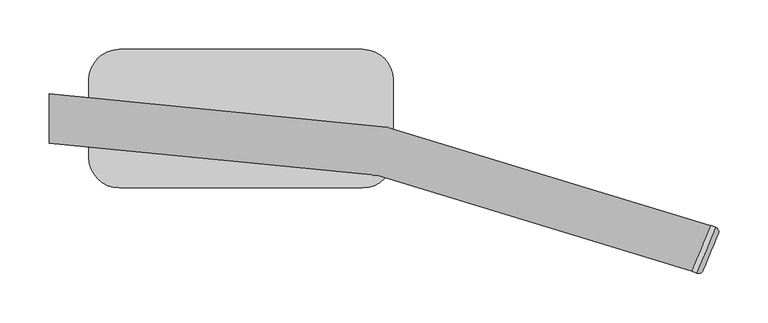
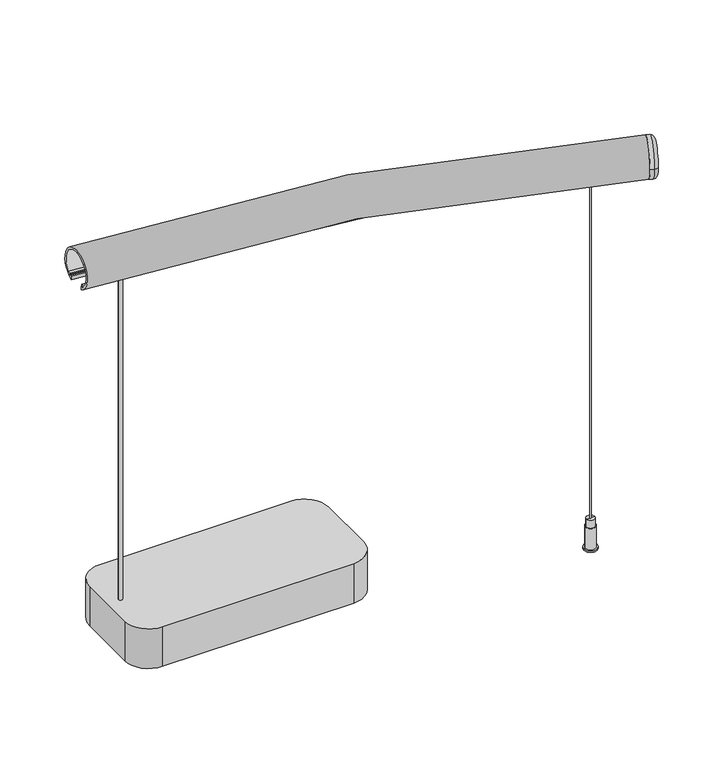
"""IFC4 building model written with IfcOpenShell, lengths in millimetres: light fixture geometry, ARTEMIDE-AoL-System-Curved_Suspended_US : Suspended_Curved 22.5°-1726mm 1118lm 3500K."""

import ifcopenshell
import ifcopenshell.guid

model = None  # the IFC model being written
_history = None  # IfcOwnerHistory: only IFC2X3 demands one
_inside = {}  # id of a spatial element -> (the spatial element, [elements in it])
_under = {}  # id of a project, library or spatial element -> (it, [spatial elements below it])
_declared = {}  # id of a project -> (the project, [libraries it declares])
_typed = {}  # id of a type object -> (the type object, [elements of that type])
_made_of = {}  # id of a material, layer set ... -> (it, [elements and type objects made of it])


def new_model(schema):
    """Start an empty IFC model of exactly this schema.

    Asked for "IFC4X3", IfcOpenShell would pick the latest addendum, in which some entities
    have other attributes; the version numbers below select the first issue.
    IFC2X3 requires an IfcOwnerHistory on every rooted entity: one is made here for all.
    """
    global model, _history
    if schema == "IFC4X3":
        model = ifcopenshell.file(schema_version=(4, 3, 0, 0))
    else:
        model = ifcopenshell.file(schema=schema)
    _inside.clear()
    _under.clear()
    _declared.clear()
    _typed.clear()
    _made_of.clear()
    _history = None
    if model.schema == "IFC2X3":
        org = make("IfcOrganization", Name="unknown")
        user = make(
            "IfcPersonAndOrganization",
            ThePerson=make("IfcPerson", FamilyName="unknown"),
            TheOrganization=org,
        )
        app = make(
            "IfcApplication",
            ApplicationDeveloper=org,
            Version="unknown",
            ApplicationFullName="unknown",
            ApplicationIdentifier="unknown",
        )
        _history = make(
            "IfcOwnerHistory",
            OwningUser=user,
            OwningApplication=app,
            ChangeAction="ADDED",
            CreationDate=0,
        )
    return model


def make(cls, **values):
    """One entity of the class cls with the attributes given. An attribute that is None is left unset."""
    return model.create_entity(
        cls, **{name: value for name, value in values.items() if value is not None}
    )


def rooted(cls, **values):
    """An entity with a GlobalId (a new one), such as an element, a storey or a relation."""
    return make(cls, GlobalId=ifcopenshell.guid.new(), OwnerHistory=_history, **values)


def si_unit(unit_type, name, prefix=None):
    """IfcSIUnit, for example si_unit("LENGTHUNIT", "METRE", prefix="MILLI")."""
    return make("IfcSIUnit", UnitType=unit_type, Prefix=prefix, Name=name)


def assignment(units):
    """IfcUnitAssignment: the units of a project."""
    return None if units is None else make("IfcUnitAssignment", Units=units)


def point(xyz):
    """IfcCartesianPoint."""
    return None if xyz is None else make("IfcCartesianPoint", Coordinates=xyz)


def direction(xyz):
    """IfcDirection."""
    return None if xyz is None else make("IfcDirection", DirectionRatios=xyz)


def frame(location, z_axis=None, x_axis=None):
    """IfcAxis2Placement3D, a coordinate frame: its origin and axes. An axis left out is left unset."""
    return make(
        "IfcAxis2Placement3D",
        Location=point(location),
        Axis=direction(z_axis),
        RefDirection=direction(x_axis),
    )


def frame_2d(location, x_axis=None):
    """IfcAxis2Placement2D, a coordinate frame in the plane: its origin and x axis."""
    return make(
        "IfcAxis2Placement2D", Location=point(location), RefDirection=direction(x_axis)
    )


def origin():
    """The frame at (0, 0, 0) with its axes left unset."""
    return frame((0.0, 0.0, 0.0))


def origin_with_axes():
    """The frame at (0, 0, 0) with the z axis (0, 0, 1) and the x axis (1, 0, 0) written out."""
    return frame((0.0, 0.0, 0.0), z_axis=(0.0, 0.0, 1.0), x_axis=(1.0, 0.0, 0.0))


def place(relative_to, where):
    """IfcLocalPlacement: puts the frame where relative to a parent placement (None: the world)."""
    return make(
        "IfcLocalPlacement", PlacementRelTo=relative_to, RelativePlacement=where
    )


def context(
    kind, dimensions, precision=None, world=None, true_north=None, identifier=None
):
    """IfcGeometricRepresentationContext, for example the 3D "Model" context."""
    return make(
        "IfcGeometricRepresentationContext",
        ContextIdentifier=identifier,
        ContextType=kind,
        CoordinateSpaceDimension=dimensions,
        Precision=precision,
        WorldCoordinateSystem=world,
        TrueNorth=true_north,
    )


def project(units=None, contexts=None):
    """IfcProject with its units and contexts."""
    return rooted(
        "IfcProject",
        Name="project",
        RepresentationContexts=contexts,
        UnitsInContext=assignment(units),
    )


def spatial(cls, under=None, at=None, **own):
    """A site, building, storey or space (cls), placed at a placement, below another one or the project."""
    s = rooted(cls, ObjectPlacement=at, **own)
    if under is not None:
        _under.setdefault(under.id(), (under, []))[1].append(s)
    return s


def polyline(points):
    """IfcPolyline through the points."""
    return make("IfcPolyline", Points=[point(p) for p in points])


def circle_curve(where, radius):
    """IfcCircle in the frame where."""
    return make("IfcCircle", Position=where, Radius=radius)


def ellipse_curve(where, semi_axis1, semi_axis2):
    """IfcEllipse in the frame where."""
    return make(
        "IfcEllipse", Position=where, SemiAxis1=semi_axis1, SemiAxis2=semi_axis2
    )


def trimmed(basis, trim1, trim2, sense, master):
    """IfcTrimmedCurve: the piece of a basis curve between two trims."""
    return make(
        "IfcTrimmedCurve",
        BasisCurve=basis,
        Trim1=trim1,
        Trim2=trim2,
        SenseAgreement=sense,
        MasterRepresentation=master,
    )


def segment(curve, same_sense, transition):
    """IfcCompositeCurveSegment."""
    return make(
        "IfcCompositeCurveSegment",
        Transition=transition,
        SameSense=same_sense,
        ParentCurve=curve,
    )


def composite_curve(segments, self_intersect=None):
    """IfcCompositeCurve: segments joined end to end."""
    return make("IfcCompositeCurve", Segments=segments, SelfIntersect=self_intersect)


def outline(outer, holes=None, kind="AREA"):
    """IfcArbitraryClosedProfileDef: a profile drawn as a closed curve; with holes, ...WithVoids."""
    if holes is None:
        return make("IfcArbitraryClosedProfileDef", ProfileType=kind, OuterCurve=outer)
    return make(
        "IfcArbitraryProfileDefWithVoids",
        ProfileType=kind,
        OuterCurve=outer,
        InnerCurves=holes,
    )


def extrude(swept, where, along, depth):
    """IfcExtrudedAreaSolid: the profile swept, set in the frame where, extruded along a direction by depth."""
    return make(
        "IfcExtrudedAreaSolid",
        SweptArea=swept,
        Position=where,
        ExtrudedDirection=direction(along),
        Depth=depth,
    )


def shape(context_of_items, identifier, shape_type, items):
    """IfcShapeRepresentation: the items that make up one representation, for example the "Body"."""
    return make(
        "IfcShapeRepresentation",
        ContextOfItems=context_of_items,
        RepresentationIdentifier=identifier,
        RepresentationType=shape_type,
        Items=items,
    )


def source(mapping_origin, context_of_items, identifier, shape_type, items):
    """IfcRepresentationMap: a shape defined once, which mapped items show again and again."""
    return make(
        "IfcRepresentationMap",
        MappingOrigin=mapping_origin,
        MappedRepresentation=shape(context_of_items, identifier, shape_type, items),
    )


def transform(
    local_origin,
    x_axis=None,
    y_axis=None,
    z_axis=None,
    scale=None,
    scale2=None,
    scale3=None,
    uniform=True,
):
    """IfcCartesianTransformationOperator3D, or its non-uniform kind. x_axis, y_axis, z_axis: its Axis1, 2, 3."""
    if uniform:
        return make(
            "IfcCartesianTransformationOperator3D",
            Axis1=direction(x_axis),
            Axis2=direction(y_axis),
            LocalOrigin=point(local_origin),
            Scale=scale,
            Axis3=direction(z_axis),
        )
    return make(
        "IfcCartesianTransformationOperator3DnonUniform",
        Axis1=direction(x_axis),
        Axis2=direction(y_axis),
        LocalOrigin=point(local_origin),
        Scale=scale,
        Axis3=direction(z_axis),
        Scale2=scale2,
        Scale3=scale3,
    )


def mapped(mapping_source, mapping_target):
    """IfcMappedItem: shows the shape of a source again, moved by a transform."""
    return make(
        "IfcMappedItem", MappingSource=mapping_source, MappingTarget=mapping_target
    )


def made_of(thing, what):
    """Note that an element or type object is made of a material, layer set ...; save() writes the relation."""
    if what is not None:
        _made_of.setdefault(what.id(), (what, []))[1].append(thing)
    return thing


def element(
    cls,
    number,
    at=None,
    inside=None,
    cuts=None,
    type_object=None,
    material=None,
    context=None,
    identifier="Body",
    shape_type=None,
    held_by="IfcProductDefinitionShape",
    body=None,
    shapes=None,
    **own,
):
    """One element of the class cls, such as IfcWall. Its Tag is "e" and its number.

    at: its placement. inside: the storey or other place that contains it. cuts: it is an
    opening in that element (IfcRelVoidsElement). A single representation is given by context,
    identifier, shape_type and body (its items); several are given by shapes. held_by: the class
    of the entity that holds the representations. save() writes the other relations.
    """
    e = rooted(cls, Tag="e%d" % number, ObjectPlacement=at, **own)
    if body is not None:
        shapes = [shape(context, identifier, shape_type, body)]
    if shapes is not None:
        e.Representation = make(held_by, Representations=shapes)
    if inside is not None:
        _inside.setdefault(inside.id(), (inside, []))[1].append(e)
    if cuts is not None:
        rooted(
            "IfcRelVoidsElement", RelatingBuildingElement=cuts, RelatedOpeningElement=e
        )
    if type_object is not None:
        _typed.setdefault(type_object.id(), (type_object, []))[1].append(e)
    return made_of(e, material)


def aggregate(whole, parts):
    """IfcRelAggregates: a whole, such as a stair, and the parts it consists of."""
    return rooted("IfcRelAggregates", RelatingObject=whole, RelatedObjects=parts)


def save(model, path):
    """Write the relations noted so far, then the file.

    IfcRelAggregates (storeys below a building ...), IfcRelContainedInSpatialStructure (elements
    in a storey), IfcRelDefinesByType, IfcRelAssociatesMaterial and IfcRelDeclares: one each for
    every whole, place, type object, material and project.
    """
    for whole, parts in _under.values():
        aggregate(whole, parts)
    for where, things in _inside.values():
        rooted(
            "IfcRelContainedInSpatialStructure",
            RelatedElements=things,
            RelatingStructure=where,
        )
    for kind, things in _typed.values():
        rooted("IfcRelDefinesByType", RelatedObjects=things, RelatingType=kind)
    for what, things in _made_of.values():
        rooted("IfcRelAssociatesMaterial", RelatedObjects=things, RelatingMaterial=what)
    for by, libraries in _declared.values():
        rooted("IfcRelDeclares", RelatingContext=by, RelatedDefinitions=libraries)
    model.write(path)


def plane_surface(at):
    """IfcPlane: the flat surface through the origin of the frame at, square to its z axis."""
    return make("IfcPlane", Position=at)


def cylinder_surface(at, radius):
    """IfcCylindricalSurface: all points at the distance radius from the z axis of the frame at."""
    return make("IfcCylindricalSurface", Position=at, Radius=radius)


def revolved_surface(curve, axis_point, axis_direction):
    """IfcSurfaceOfRevolution: the curve turned about the line through axis_point along axis_direction."""
    return make(
        "IfcSurfaceOfRevolution",
        SweptCurve=make("IfcArbitraryOpenProfileDef", ProfileType="CURVE", Curve=curve),
        AxisPosition=make("IfcAxis1Placement", Location=point(axis_point), Axis=direction(axis_direction)),
    )


def advanced_brep(points, edges, surfaces, faces):
    """IfcAdvancedBrep: a solid bounded by faces that lie on surfaces and meet in shared edges.

    An edge is (start, end): straight between two places in points (the first is 0);
    or (start, end, curve); or (start, end, curve, False) where it runs against its curve.
    A face is (place in surfaces, loops), or (place, loops, False) where it looks against
    its surface's normal. A loop lists edges by number (the first is 1), with a minus sign
    where the edge is run from its end to its start. The first loop is the outer one.
    """
    corners = [point(p) for p in points]
    vertices = [make("IfcVertexPoint", VertexGeometry=c) for c in corners]
    made = []
    for start, end, *more in edges:
        made.append(
            make(
                "IfcEdgeCurve",
                EdgeStart=vertices[start],
                EdgeEnd=vertices[end],
                EdgeGeometry=more[0] if more else make("IfcPolyline", Points=[corners[start], corners[end]]),
                SameSense=more[1] if len(more) > 1 else True,
            )
        )
    hull = []
    for where, loops, *sense in faces:
        bounds = []
        for j, loop in enumerate(loops):
            ring = [make("IfcOrientedEdge", EdgeElement=made[abs(k) - 1], Orientation=k > 0) for k in loop]
            bounds.append(
                make(
                    "IfcFaceOuterBound" if j == 0 else "IfcFaceBound",
                    Bound=make("IfcEdgeLoop", EdgeList=ring),
                    Orientation=True,
                )
            )
        hull.append(make("IfcAdvancedFace", Bounds=bounds, FaceSurface=surfaces[where], SameSense=sense[0] if sense else True))
    return make("IfcAdvancedBrep", Outer=make("IfcClosedShell", CfsFaces=hull))


def light_fixture_1d5f3e24(model_context):
    return source(origin(), model_context, "Body", "SolidModel", [
        advanced_brep(
        [(600.0, -109.3, 0.0), (600.8, -109.3, 0.0), (599.2, -109.3, 0.0), (599.2, -109.3, 510.0), (600.8, -109.3, 510.0), (600.0, -109.3, 510.0)],
        [
            (0, 1),
            (1, 2, circle_curve(frame((600.0, -109.3, 0.0), z_axis=(0.0, 0.0, -1.0), x_axis=(1.0, 0.0, 0.0)), 0.8)),
            (2, 0),
            (2, 1, circle_curve(frame((600.0, -109.3, 0.0), z_axis=(0.0, 0.0, -1.0), x_axis=(1.0, 0.0, 0.0)), 0.8)),
            (3, 4, circle_curve(frame((600.0, -109.3, 510.0), z_axis=(0.0, 0.0, 1.0), x_axis=(1.0, 0.0, 0.0)), 0.8)),
            (4, 5),
            (5, 3),
            (4, 3, circle_curve(frame((600.0, -109.3, 510.0), z_axis=(0.0, 0.0, 1.0), x_axis=(1.0, 0.0, 0.0)), 0.8)),
            (1, 4),
            (3, 2),
        ],
        [
            plane_surface(frame((600.0, -109.3, 0.0), z_axis=(0.0, 0.0, -1.0), x_axis=(1.0, 0.0, 0.0))),
            plane_surface(frame((600.0, -109.3, 510.0), z_axis=(0.0, 0.0, 1.0), x_axis=(1.0, 0.0, 0.0))),
            cylinder_surface(frame((600.0, -109.3, -15.0), z_axis=(0.0, 0.0, -1.0), x_axis=(1.0, 0.0, 0.0)), 0.8),
        ],
        [
            (0, [[1, 2, 3]]),
            (0, [[-3, 4, -1]]),
            (1, [[5, 6, 7]]),
            (1, [[8, -7, -6]]),
            (2, [[-2, 9, -5, 10]]),
            (2, [[-4, -10, -8, -9]]),
        ],
    ),
        advanced_brep(
        [(594.5097745, -109.3, 30.9721976), (605.4902255, -109.3, 30.9721976), (605.4902255, -109.3, 41.0209548), (594.5097745, -109.3, 41.0209548), (593.4476301, -109.3, 30.9721976), (606.5523699, -109.3, 30.9721976), (593.4476301, -109.3, 2.0209548), (606.5523699, -109.3, 2.0209548), (591.4476301, -109.3, 2.0209548), (608.5523699, -109.3, 2.0209548), (591.4476301, -109.3, 0.0), (608.5523699, -109.3, 0.0), (599.0, -109.3, 0.0), (601.0, -109.3, 0.0), (599.0, -109.3, 41.0209548), (601.0, -109.3, 41.0209548)],
        [
            (0, 1, circle_curve(frame((600.0, -109.3, 30.9721976), z_axis=(0.0, 0.0, 1.0), x_axis=(1.0, 0.0, 0.0)), 5.4902255)),
            (1, 2),
            (2, 3, circle_curve(frame((600.0, -109.3, 41.0209548), z_axis=(0.0, 0.0, -1.0), x_axis=(1.0, 0.0, 0.0)), 5.4902255)),
            (3, 0),
            (1, 0, circle_curve(frame((600.0, -109.3, 30.9721976), z_axis=(0.0, 0.0, 1.0), x_axis=(1.0, 0.0, 0.0)), 5.4902255)),
            (3, 2, circle_curve(frame((600.0, -109.3, 41.0209548), z_axis=(0.0, 0.0, -1.0), x_axis=(1.0, 0.0, 0.0)), 5.4902255)),
            (4, 5, circle_curve(frame((600.0, -109.3, 30.9721976), z_axis=(0.0, 0.0, 1.0), x_axis=(1.0, 0.0, 0.0)), 6.5523699)),
            (5, 1),
            (0, 4),
            (5, 4, circle_curve(frame((600.0, -109.3, 30.9721976), z_axis=(0.0, 0.0, 1.0), x_axis=(1.0, 0.0, 0.0)), 6.5523699)),
            (6, 7, circle_curve(frame((600.0, -109.3, 2.0209548), z_axis=(0.0, 0.0, 1.0), x_axis=(1.0, 0.0, 0.0)), 6.5523699)),
            (7, 5),
            (4, 6),
            (7, 6, circle_curve(frame((600.0, -109.3, 2.0209548), z_axis=(0.0, 0.0, 1.0), x_axis=(1.0, 0.0, 0.0)), 6.5523699)),
            (8, 9, circle_curve(frame((600.0, -109.3, 2.0209548), z_axis=(0.0, 0.0, 1.0), x_axis=(1.0, 0.0, 0.0)), 8.5523699)),
            (9, 7),
            (6, 8),
            (9, 8, circle_curve(frame((600.0, -109.3, 2.0209548), z_axis=(0.0, 0.0, 1.0), x_axis=(1.0, 0.0, 0.0)), 8.5523699)),
            (10, 11, circle_curve(frame((600.0, -109.3, 0.0), z_axis=(0.0, 0.0, 1.0), x_axis=(1.0, 0.0, 0.0)), 8.5523699)),
            (11, 9),
            (8, 10),
            (11, 10, circle_curve(frame((600.0, -109.3, 0.0), z_axis=(0.0, 0.0, 1.0), x_axis=(1.0, 0.0, 0.0)), 8.5523699)),
            (12, 13, circle_curve(frame((600.0, -109.3, 0.0), z_axis=(0.0, 0.0, 1.0), x_axis=(1.0, 0.0, 0.0)), 1.0)),
            (13, 11),
            (10, 12),
            (13, 12, circle_curve(frame((600.0, -109.3, 0.0), z_axis=(0.0, 0.0, 1.0), x_axis=(1.0, 0.0, 0.0)), 1.0)),
            (14, 15, circle_curve(frame((600.0, -109.3, 41.0209548), z_axis=(0.0, 0.0, 1.0), x_axis=(1.0, 0.0, 0.0)), 1.0)),
            (15, 13),
            (12, 14),
            (15, 14, circle_curve(frame((600.0, -109.3, 41.0209548), z_axis=(0.0, 0.0, 1.0), x_axis=(1.0, 0.0, 0.0)), 1.0)),
            (2, 15),
            (14, 3),
        ],
        [
            cylinder_surface(frame((600.0, -109.3, 46.0209548), z_axis=(0.0, 0.0, -1.0), x_axis=(1.0, 0.0, 0.0)), 5.4902255),
            plane_surface(frame((600.0, -109.3, 30.9721976), z_axis=(0.0, 0.0, 1.0), x_axis=(1.0, 0.0, 0.0))),
            cylinder_surface(frame((600.0, -109.3, 46.0209548), z_axis=(0.0, 0.0, -1.0), x_axis=(1.0, 0.0, 0.0)), 6.5523699),
            plane_surface(frame((600.0, -109.3, 2.0209548), z_axis=(0.0, 0.0, 1.0), x_axis=(1.0, 0.0, 0.0))),
            cylinder_surface(frame((600.0, -109.3, 46.0209548), z_axis=(0.0, 0.0, -1.0), x_axis=(1.0, 0.0, 0.0)), 8.5523699),
            plane_surface(frame((600.0, -109.3, 0.0), z_axis=(0.0, 0.0, -1.0), x_axis=(1.0, 0.0, 0.0))),
            revolved_surface(polyline([(601.0, -109.3, 0.0), (601.0, -109.3, 41.0209548)]), (600.0, -109.3, 46.0209548), (0.0, 0.0, -1.0)),
            plane_surface(frame((600.0, -109.3, 41.0209548), z_axis=(0.0, 0.0, 1.0), x_axis=(1.0, 0.0, 0.0))),
        ],
        [
            (0, [[1, 2, 3, 4]]),
            (0, [[5, -4, 6, -2]]),
            (1, [[7, 8, -1, 9]]),
            (1, [[10, -9, -5, -8]]),
            (2, [[11, 12, -7, 13]]),
            (2, [[14, -13, -10, -12]]),
            (3, [[15, 16, -11, 17]]),
            (3, [[18, -17, -14, -16]]),
            (4, [[19, 20, -15, 21]]),
            (4, [[22, -21, -18, -20]]),
            (5, [[23, 24, -19, 25]]),
            (5, [[26, -25, -22, -24]]),
            (6, [[27, 28, -23, 29]]),
            (6, [[30, -29, -26, -28]]),
            (7, [[-3, 31, -27, 32]]),
            (7, [[-6, -32, -30, -31]]),
        ],
    ),
        advanced_brep(
        [(664.429037, -120.9264076, 502.6676119), (664.429037, -120.9264076, 507.259212), (665.3593438, -118.6804482, 507.259212), (665.3593438, -118.6804482, 509.244074), (664.9766604, -119.6043278, 509.244074), (664.9766604, -119.6043278, 510.744074), (655.2811812, -143.0112851, 510.744074), (655.2811812, -143.0112851, 509.244074), (654.8984978, -143.9351646, 509.244074), (654.8984978, -143.9351646, 507.259212), (655.8288046, -141.6892052, 507.259212), (655.8288046, -141.6892052, 502.6676119), (59.8094751, -12.2807234, 502.6676119), (60.5937886, 10.1790766, 502.6676119), (60.5937886, 10.1790766, 507.259212), (60.6786295, 12.6086046, 507.259212), (60.6786295, 12.6086046, 509.244074), (60.6437301, 11.6092138, 509.244074), (60.6437301, 11.6092138, 510.744074), (59.7595336, -13.7108605, 510.744074), (59.7595336, -13.7108605, 509.244074), (59.7246341, -14.7102514, 509.244074), (59.7246341, -14.7102514, 507.259212), (59.8094751, -12.2807234, 507.259212)],
        [
            (0, 1),
            (1, 2),
            (2, 3),
            (3, 4),
            (4, 5),
            (5, 6),
            (6, 7),
            (7, 8),
            (8, 9),
            (9, 10),
            (10, 11),
            (11, 0, circle_curve(frame((660.1289208, -131.3078064, 525.0), z_axis=(0.9238795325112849, -0.3826834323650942, 0.0), x_axis=(0.3826834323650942, 0.9238795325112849, 0.0)), 25.0)),
            (11, 12, circle_curve(frame((0.0, -1725.0, 502.6676119), z_axis=(0.0, 0.0, 1.0), x_axis=(0.0, 1.0, 0.0)), 1713.7632549)),
            (12, 13, circle_curve(frame((60.2016318, -1.0508234, 525.0), z_axis=(0.9993908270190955, -0.03489949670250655, 0.0), x_axis=(0.03489949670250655, 0.9993908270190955, 0.0)), 25.0)),
            (13, 0, circle_curve(frame((0.0, -1725.0, 502.6676119), z_axis=(0.0, 0.0, -1.0), x_axis=(0.0, 1.0, 0.0)), 1736.2367451)),
            (13, 14),
            (14, 1, circle_curve(frame((0.0, -1725.0, 507.259212), z_axis=(0.0, 0.0, -1.0), x_axis=(0.0, 1.0, 0.0)), 1736.2367451)),
            (14, 15),
            (15, 2, circle_curve(frame((0.0, -1725.0, 507.259212), z_axis=(0.0, 0.0, -1.0), x_axis=(0.0, 1.0, 0.0)), 1738.667754)),
            (15, 16),
            (16, 3, circle_curve(frame((0.0, -1725.0, 509.244074), z_axis=(0.0, 0.0, -1.0), x_axis=(0.0, 1.0, 0.0)), 1738.667754)),
            (16, 17),
            (17, 4, circle_curve(frame((0.0, -1725.0, 509.244074), z_axis=(0.0, 0.0, -1.0), x_axis=(0.0, 1.0, 0.0)), 1737.667754)),
            (17, 18),
            (18, 5, circle_curve(frame((0.0, -1725.0, 510.744074), z_axis=(0.0, 0.0, -1.0), x_axis=(0.0, 1.0, 0.0)), 1737.667754)),
            (18, 19),
            (19, 6, circle_curve(frame((0.0, -1725.0, 510.744074), z_axis=(0.0, 0.0, -1.0), x_axis=(0.0, 1.0, 0.0)), 1712.332246)),
            (19, 20),
            (20, 7, circle_curve(frame((0.0, -1725.0, 509.244074), z_axis=(0.0, 0.0, -1.0), x_axis=(0.0, 1.0, 0.0)), 1712.332246)),
            (20, 21),
            (21, 8, circle_curve(frame((0.0, -1725.0, 509.244074), z_axis=(0.0, 0.0, -1.0), x_axis=(0.0, 1.0, 0.0)), 1711.332246)),
            (21, 22),
            (22, 9, circle_curve(frame((0.0, -1725.0, 507.259212), z_axis=(0.0, 0.0, -1.0), x_axis=(0.0, 1.0, 0.0)), 1711.332246)),
            (22, 23),
            (23, 10, circle_curve(frame((0.0, -1725.0, 507.259212), z_axis=(0.0, 0.0, -1.0), x_axis=(0.0, 1.0, 0.0)), 1713.7632549)),
            (23, 12),
        ],
        [
            plane_surface(frame((660.1289208, -131.3078064, 500.0), z_axis=(0.923879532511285, -0.3826834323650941, 0.0), x_axis=(0.0, 0.0, 1.0))),
            revolved_surface(trimmed(ellipse_curve(frame((0.0, 0.0, 525.0), z_axis=(-1.0, 0.0, 0.0), x_axis=(0.0, 1.0, 0.0)), 25.0, 25.0), [point((0.0, 11.2367451, 502.6676119))], [point((0.0, -11.2367451, 502.6676119))], True, "CARTESIAN"), (0.0, -1725.0, 500.0), (0.0, 0.0, -1.0)),
            cylinder_surface(frame((0.0, -1725.0, 500.0), z_axis=(0.0, 0.0, -1.0), x_axis=(0.0, 1.0, 0.0)), 1736.2367451),
            plane_surface(frame((0.0, -1725.0, 507.259212), z_axis=(0.0, 0.0, -1.0), x_axis=(0.0, 1.0, 0.0))),
            cylinder_surface(frame((0.0, -1725.0, 500.0), z_axis=(0.0, 0.0, -1.0), x_axis=(0.0, 1.0, 0.0)), 1738.667754),
            plane_surface(frame((0.0, -1725.0, 509.244074), z_axis=(0.0, 0.0, 1.0), x_axis=(0.0, 1.0, 0.0))),
            cylinder_surface(frame((0.0, -1725.0, 500.0), z_axis=(0.0, 0.0, -1.0), x_axis=(0.0, 1.0, 0.0)), 1737.667754),
            plane_surface(frame((0.0, -1725.0, 510.744074), z_axis=(0.0, 0.0, 1.0), x_axis=(0.0, 1.0, 0.0))),
            revolved_surface(polyline([(0.0, -12.667754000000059, 509.244074), (0.0, -12.667754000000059, 510.744074)]), (0.0, -1725.0, 500.0), (0.0, 0.0, -1.0)),
            revolved_surface(polyline([(0.0, -13.667754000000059, 507.259212), (0.0, -13.667754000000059, 509.244074)]), (0.0, -1725.0, 500.0), (0.0, 0.0, -1.0)),
            revolved_surface(polyline([(0.0, -11.236745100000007, 502.6676119), (0.0, -11.236745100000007, 507.259212)]), (0.0, -1725.0, 500.0), (0.0, 0.0, -1.0)),
            plane_surface(frame((60.2016318, -1.0508234, 500.0), z_axis=(-0.9993908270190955, 0.03489949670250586, 0.0), x_axis=(0.0, 0.0, 1.0))),
        ],
        [
            (0, [[1, 2, 3, 4, 5, 6, 7, 8, 9, 10, 11, 12]]),
            (1, [[-12, 13, 14, 15]]),
            (2, [[-1, -15, 16, 17]]),
            (3, [[-2, -17, 18, 19]]),
            (4, [[-3, -19, 20, 21]]),
            (5, [[-4, -21, 22, 23]]),
            (6, [[-5, -23, 24, 25]]),
            (7, [[-6, -25, 26, 27]]),
            (8, [[-7, -27, 28, 29]]),
            (5, [[-8, -29, 30, 31]]),
            (9, [[-9, -31, 32, 33]]),
            (3, [[-10, -33, 34, 35]]),
            (10, [[-11, -35, 36, -13]]),
            (11, [[-14, -36, -34, -32, -30, -28, -26, -24, -22, -20, -18, -16]]),
        ],
    ),
        advanced_brep(
        [(661.7140475, -153.6122314, 525.0), (677.0213848, -116.6570501, 525.0), (650.561835, -154.4047947, 525.0), (669.6960066, -108.2108181, 525.0), (674.3154043, -110.1242353, 525.0), (655.1812327, -156.3182119, 525.0)],
        [
            (0, 1, circle_curve(frame((669.3677162, -135.1346407, 525.0), z_axis=(0.923879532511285, -0.3826834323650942, 0.0), x_axis=(0.3826834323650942, 0.923879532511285, 0.0)), 20.0)),
            (1, 0, circle_curve(frame((669.3677162, -135.1346407, 525.0), z_axis=(0.923879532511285, -0.3826834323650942, 0.0), x_axis=(-0.3826834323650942, -0.923879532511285, 0.0)), 20.0)),
            (2, 3, circle_curve(frame((660.1289208, -131.3078064, 525.0), z_axis=(-0.923879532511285, 0.3826834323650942, 0.0), x_axis=(0.0, 0.0, 1.0)), 25.0)),
            (3, 2, circle_curve(frame((660.1289208, -131.3078064, 525.0), z_axis=(-0.923879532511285, 0.3826834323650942, 0.0), x_axis=(0.0, 0.0, 1.0)), 25.0)),
            (3, 4),
            (4, 5, circle_curve(frame((664.7483185, -133.2212236, 525.0), z_axis=(-0.923879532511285, 0.3826834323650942, 0.0), x_axis=(0.0, 0.0, 1.0)), 25.0)),
            (5, 2),
            (5, 4, circle_curve(frame((664.7483185, -133.2212236, 525.0), z_axis=(-0.923879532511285, 0.3826834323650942, 0.0), x_axis=(0.0, 0.0, 1.0)), 25.0)),
            (0, 5, circle_curve(frame((657.0946498, -151.6988142, 525.0), z_axis=(0.0, 0.0, -1.0), x_axis=(-0.3826834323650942, -0.923879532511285, 0.0)), 5.0)),
            (4, 1, circle_curve(frame((672.4019871, -114.7436329, 525.0), z_axis=(0.0, 0.0, -1.0), x_axis=(0.3826834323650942, 0.923879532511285, 0.0)), 5.0)),
        ],
        [
            plane_surface(frame((669.3677162, -135.1346407, 550.0), z_axis=(0.9238795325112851, -0.3826834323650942, 0.0), x_axis=(-0.3826834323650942, -0.9238795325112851, 0.0))),
            plane_surface(frame((660.1289208, -131.3078064, 550.0), z_axis=(-0.9238795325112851, 0.3826834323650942, 0.0), x_axis=(0.3826834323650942, 0.9238795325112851, 0.0))),
            cylinder_surface(frame((660.1289208, -131.3078064, 525.0), z_axis=(0.923879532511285, -0.3826834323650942, 0.0), x_axis=(0.0, 0.0, 1.0)), 25.0),
            revolved_surface(trimmed(ellipse_curve(frame((672.4019871, -114.7436329, 525.0), z_axis=(0.0, 0.0, 1.0), x_axis=(0.3826834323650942, 0.923879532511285, 0.0)), 5.0, 5.0), [point((677.0213848, -116.6570501, 525.0))], [point((674.3154043, -110.1242353, 525.0))], True, "CARTESIAN"), (669.3677162, -135.1346407, 525.0), (-0.923879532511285, 0.3826834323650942, 0.0)),
            revolved_surface(trimmed(ellipse_curve(frame((657.0946498, -151.6988142, 525.0), z_axis=(0.0, 0.0, -1.0), x_axis=(-0.3826834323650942, -0.923879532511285, 0.0)), 5.0, 5.0), [point((661.7140475, -153.6122314, 525.0))], [point((655.1812327, -156.3182119, 525.0))], True, "CARTESIAN"), (669.3677162, -135.1346407, 525.0), (-0.923879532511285, 0.3826834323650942, 0.0)),
        ],
        [
            (0, [[1, 2]]),
            (1, [[3, 4]]),
            (2, [[-4, 5, 6, 7]]),
            (2, [[-3, -7, 8, -5]]),
            (3, [[9, -6, 10, -1]]),
            (4, [[-9, -2, -10, -8]]),
        ],
    ),
        advanced_brep(
        [(0.0, -11.2367451, 502.6676119), (0.0, 11.2367451, 502.6676119), (0.0, 11.2367451, 507.259212), (0.0, 13.667754, 507.259212), (0.0, 13.667754, 505.8288843), (0.0, 15.617754, 507.2440748), (0.0, 15.617754, 509.244074), (0.0, 12.667754, 509.244074), (0.0, 12.667754, 510.744074), (0.0, 17.2779794, 510.744074), (0.0, -17.2779794, 510.744074), (0.0, -12.667754, 510.744074), (0.0, -12.667754, 509.244074), (0.0, -15.617754, 509.244074), (0.0, -15.617754, 507.2440748), (0.0, -13.667754, 505.8288843), (0.0, -13.667754, 507.259212), (0.0, -11.2367451, 507.259212), (655.8288046, -141.6892052, 502.6676119), (655.8288046, -141.6892052, 507.259212), (654.8984978, -143.9351646, 507.259212), (654.8984978, -143.9351646, 505.8288843), (654.1522651, -145.7367297, 507.2440748), (654.1522651, -145.7367297, 509.244074), (655.2811812, -143.0112851, 509.244074), (655.2811812, -143.0112851, 510.744074), (653.5169244, -147.270578, 510.744074), (666.7409173, -115.3450348, 510.744074), (664.9766604, -119.6043278, 510.744074), (664.9766604, -119.6043278, 509.244074), (666.1055765, -116.8788832, 509.244074), (666.1055765, -116.8788832, 507.2440748), (665.3593438, -118.6804482, 505.8288843), (665.3593438, -118.6804482, 507.259212), (664.429037, -120.9264076, 507.259212), (664.429037, -120.9264076, 502.6676119)],
        [
            (0, 1, circle_curve(frame((0.0, 0.0, 525.0), z_axis=(-1.0, 0.0, 0.0), x_axis=(0.0, 1.0, 0.0)), 25.0)),
            (1, 2),
            (2, 3),
            (3, 4),
            (4, 5),
            (5, 6),
            (6, 7),
            (7, 8),
            (8, 9),
            (9, 10, circle_curve(frame((0.0, 0.0, 525.0), z_axis=(1.0, 0.0, 0.0), x_axis=(0.0, 1.0, 0.0)), 22.4)),
            (10, 11),
            (11, 12),
            (12, 13),
            (13, 14),
            (14, 15),
            (15, 16),
            (16, 17),
            (17, 0),
            (18, 19),
            (19, 20),
            (20, 21),
            (21, 22),
            (22, 23),
            (23, 24),
            (24, 25),
            (25, 26),
            (26, 27, circle_curve(frame((660.1289208, -131.3078064, 525.0), z_axis=(-0.923879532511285, 0.3826834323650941, 0.0), x_axis=(0.3826834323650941, 0.923879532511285, 0.0)), 22.4)),
            (27, 28),
            (28, 29),
            (29, 30),
            (30, 31),
            (31, 32),
            (32, 33),
            (33, 34),
            (34, 35),
            (35, 18, circle_curve(frame((660.1289208, -131.3078064, 525.0), z_axis=(0.923879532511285, -0.3826834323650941, 0.0), x_axis=(0.3826834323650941, 0.923879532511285, 0.0)), 25.0)),
            (35, 1, circle_curve(frame((0.0, -1725.0, 502.6676119), z_axis=(0.0, 0.0, 1.0), x_axis=(0.0, 1.0, 0.0)), 1736.2367451)),
            (0, 18, circle_curve(frame((0.0, -1725.0, 502.6676119), z_axis=(0.0, 0.0, -1.0), x_axis=(0.0, 1.0, 0.0)), 1713.7632549)),
            (34, 2, circle_curve(frame((0.0, -1725.0, 507.259212), z_axis=(0.0, 0.0, 1.0), x_axis=(0.0, 1.0, 0.0)), 1736.2367451)),
            (33, 3, circle_curve(frame((0.0, -1725.0, 507.259212), z_axis=(0.0, 0.0, 1.0), x_axis=(0.0, 1.0, 0.0)), 1738.667754)),
            (32, 4, circle_curve(frame((0.0, -1725.0, 505.8288843), z_axis=(0.0, 0.0, 1.0), x_axis=(0.0, 1.0, 0.0)), 1738.667754)),
            (31, 5, circle_curve(frame((0.0, -1725.0, 507.2440748), z_axis=(0.0, 0.0, 1.0), x_axis=(0.0, 1.0, 0.0)), 1740.617754)),
            (30, 6, circle_curve(frame((0.0, -1725.0, 509.244074), z_axis=(0.0, 0.0, 1.0), x_axis=(0.0, 1.0, 0.0)), 1740.617754)),
            (29, 7, circle_curve(frame((0.0, -1725.0, 509.244074), z_axis=(0.0, 0.0, 1.0), x_axis=(0.0, 1.0, 0.0)), 1737.667754)),
            (28, 8, circle_curve(frame((0.0, -1725.0, 510.744074), z_axis=(0.0, 0.0, 1.0), x_axis=(0.0, 1.0, 0.0)), 1737.667754)),
            (27, 9, circle_curve(frame((0.0, -1725.0, 510.744074), z_axis=(0.0, 0.0, 1.0), x_axis=(0.0, 1.0, 0.0)), 1742.2779794)),
            (25, 11, circle_curve(frame((0.0, -1725.0, 510.744074), z_axis=(0.0, 0.0, 1.0), x_axis=(0.0, 1.0, 0.0)), 1712.332246)),
            (10, 26, circle_curve(frame((0.0, -1725.0, 510.744074), z_axis=(0.0, 0.0, -1.0), x_axis=(0.0, 1.0, 0.0)), 1707.7220206)),
            (24, 12, circle_curve(frame((0.0, -1725.0, 509.244074), z_axis=(0.0, 0.0, 1.0), x_axis=(0.0, 1.0, 0.0)), 1712.332246)),
            (23, 13, circle_curve(frame((0.0, -1725.0, 509.244074), z_axis=(0.0, 0.0, 1.0), x_axis=(0.0, 1.0, 0.0)), 1709.382246)),
            (22, 14, circle_curve(frame((0.0, -1725.0, 507.2440748), z_axis=(0.0, 0.0, 1.0), x_axis=(0.0, 1.0, 0.0)), 1709.382246)),
            (21, 15, circle_curve(frame((0.0, -1725.0, 505.8288843), z_axis=(0.0, 0.0, 1.0), x_axis=(0.0, 1.0, 0.0)), 1711.332246)),
            (20, 16, circle_curve(frame((0.0, -1725.0, 507.259212), z_axis=(0.0, 0.0, 1.0), x_axis=(0.0, 1.0, 0.0)), 1711.332246)),
            (19, 17, circle_curve(frame((0.0, -1725.0, 507.259212), z_axis=(0.0, 0.0, 1.0), x_axis=(0.0, 1.0, 0.0)), 1713.7632549)),
        ],
        [
            plane_surface(frame((0.0, 0.0, 500.0), z_axis=(-1.0, 0.0, 0.0), x_axis=(0.0, 0.0, 1.0))),
            plane_surface(frame((660.1289208, -131.3078064, 500.0), z_axis=(0.923879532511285, -0.3826834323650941, 0.0), x_axis=(0.0, 0.0, 1.0))),
            revolved_surface(trimmed(ellipse_curve(frame((0.0, 0.0, 525.0), z_axis=(-1.0, 0.0, 0.0), x_axis=(0.0, 1.0, 0.0)), 25.0, 25.0), [point((0.0, -11.2367451, 502.6676119))], [point((0.0, 11.2367451, 502.6676119))], True, "CARTESIAN"), (0.0, -1725.0, 500.0), (0.0, 0.0, -1.0)),
            revolved_surface(polyline([(0.0, 11.236745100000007, 502.6676119), (0.0, 11.236745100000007, 507.259212)]), (0.0, -1725.0, 500.0), (0.0, 0.0, -1.0)),
            plane_surface(frame((0.0, -1725.0, 507.259212), z_axis=(0.0, 0.0, 1.0), x_axis=(0.0, 1.0, 0.0))),
            cylinder_surface(frame((0.0, -1725.0, 500.0), z_axis=(0.0, 0.0, -1.0), x_axis=(0.0, 1.0, 0.0)), 1738.667754),
            revolved_surface(polyline([(0.0, 13.667754, 505.8288843), (0.0, 15.617754, 507.2440748)]), (0.0, -1725.0, 500.0), (0.0, 0.0, -1.0)),
            revolved_surface(polyline([(0.0, 15.617754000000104, 507.2440748), (0.0, 15.617754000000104, 509.244074)]), (0.0, -1725.0, 500.0), (0.0, 0.0, -1.0)),
            plane_surface(frame((0.0, -1725.0, 509.244074), z_axis=(0.0, 0.0, -1.0), x_axis=(0.0, 1.0, 0.0))),
            revolved_surface(polyline([(0.0, 12.667754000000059, 509.244074), (0.0, 12.667754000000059, 510.744074)]), (0.0, -1725.0, 500.0), (0.0, 0.0, -1.0)),
            plane_surface(frame((0.0, -1725.0, 510.744074), z_axis=(0.0, 0.0, 1.0), x_axis=(0.0, 1.0, 0.0))),
            cylinder_surface(frame((0.0, -1725.0, 500.0), z_axis=(0.0, 0.0, -1.0), x_axis=(0.0, 1.0, 0.0)), 1712.332246),
            cylinder_surface(frame((0.0, -1725.0, 500.0), z_axis=(0.0, 0.0, -1.0), x_axis=(0.0, 1.0, 0.0)), 1709.382246),
            revolved_surface(polyline([(0.0, -15.617754, 507.2440748), (0.0, -13.667754, 505.8288843)]), (0.0, -1725.0, 500.0), (0.0, 0.0, -1.0)),
            revolved_surface(polyline([(0.0, -13.667754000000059, 505.8288843), (0.0, -13.667754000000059, 507.259212)]), (0.0, -1725.0, 500.0), (0.0, 0.0, -1.0)),
            cylinder_surface(frame((0.0, -1725.0, 500.0), z_axis=(0.0, 0.0, -1.0), x_axis=(0.0, 1.0, 0.0)), 1713.7632549),
            revolved_surface(trimmed(ellipse_curve(frame((0.0, 0.0, 525.0), z_axis=(1.0, 0.0, 0.0), x_axis=(0.0, 1.0, 0.0)), 22.4, 22.4), [point((0.0, 17.2779794, 510.744074))], [point((0.0, -17.2779794, 510.744074))], True, "CARTESIAN"), (0.0, -1725.0, 500.0), (0.0, 0.0, -1.0)),
        ],
        [
            (0, [[1, 2, 3, 4, 5, 6, 7, 8, 9, 10, 11, 12, 13, 14, 15, 16, 17, 18]]),
            (1, [[19, 20, 21, 22, 23, 24, 25, 26, 27, 28, 29, 30, 31, 32, 33, 34, 35, 36]]),
            (2, [[37, -1, 38, -36]]),
            (3, [[39, -2, -37, -35]]),
            (4, [[40, -3, -39, -34]]),
            (5, [[41, -4, -40, -33]]),
            (6, [[42, -5, -41, -32]]),
            (7, [[43, -6, -42, -31]]),
            (8, [[44, -7, -43, -30]]),
            (9, [[45, -8, -44, -29]]),
            (10, [[46, -9, -45, -28]]),
            (10, [[47, -11, 48, -26]]),
            (11, [[49, -12, -47, -25]]),
            (8, [[50, -13, -49, -24]]),
            (12, [[51, -14, -50, -23]]),
            (13, [[52, -15, -51, -22]]),
            (14, [[53, -16, -52, -21]]),
            (4, [[54, -17, -53, -20]]),
            (15, [[-38, -18, -54, -19]]),
            (16, [[-48, -10, -46, -27]]),
        ],
    ),
        extrude(outline(composite_curve([segment(polyline([(70.8708919, 70.020892), (317.1291081, 70.020892)]), True, "CONTINUOUS"), segment(trimmed(circle_curve(frame_2d((317.1291081, 39.1500001)), 30.8708919), [point((317.1291081, 70.020892))], [point((348.0, 39.1500001))], False, "CARTESIAN"), True, "CONTINUOUS"), segment(polyline([(348.0, 39.1500001), (348.0, -39.1500001)]), True, "CONTINUOUS"), segment(trimmed(circle_curve(frame_2d((317.1291081, -39.1500001)), 30.8708919), [point((348.0, -39.1500001))], [point((317.1291081, -70.020892))], False, "CARTESIAN"), True, "CONTINUOUS"), segment(polyline([(317.1291081, -70.020892), (70.8708919, -70.020892)]), True, "CONTINUOUS"), segment(trimmed(circle_curve(frame_2d((70.8708919, -39.1500001)), 30.8708919), [point((70.8708919, -70.020892))], [point((40.0, -39.1500001))], False, "CARTESIAN"), True, "CONTINUOUS"), segment(polyline([(40.0, -39.1500001), (40.0, 39.1500001)]), True, "CONTINUOUS"), segment(trimmed(circle_curve(frame_2d((70.8708919, 39.1500001)), 30.8708919), [point((40.0, 39.1500001))], [point((70.8708919, 70.020892))], False, "CARTESIAN"), True, "CONTINUOUS")], self_intersect=False)), origin_with_axes(), (0.0, 0.0, 1.0), 54.0),
        extrude(outline(composite_curve([segment(trimmed(circle_curve(frame_2d((57.0, 0.0)), 2.5), [point((54.5, 0.0))], [point((59.5, 0.0))], False, "CARTESIAN"), True, "CONTINUOUS"), segment(trimmed(circle_curve(frame_2d((57.0, 0.0)), 2.5), [point((59.5, 0.0))], [point((54.5, 0.0))], False, "CARTESIAN"), True, "CONTINUOUS")], self_intersect=False)), origin_with_axes(), (0.0, 0.0, 1.0), 507.2),
    ])


if __name__ == "__main__":
    model = new_model("IFC4")
    model_context = context("Model", 3, world=origin())
    ifc_project = project(units=[si_unit("LENGTHUNIT", "METRE", prefix="MILLI")], contexts=[model_context])
    site = spatial("IfcSite", under=ifc_project)
    building = spatial("IfcBuilding", under=site)
    placement = place(None, origin())
    light_fixture_shape = light_fixture_1d5f3e24(model_context)
    element("IfcLightFixture", 1, ObjectType="ARTEMIDE-AoL-System-Curved_Suspended_US : Suspended_Curved 22.5°-1726mm 1118lm 3500K", at=placement, inside=building, context=model_context, shape_type="MappedRepresentation", body=[
        mapped(light_fixture_shape, transform((0.0, 0.0, 0.0), x_axis=(1.0, 0.0, 0.0), y_axis=(0.0, 1.0, 0.0), z_axis=(0.0, 0.0, 1.0))),
    ])
    save(model, "model.ifc")
